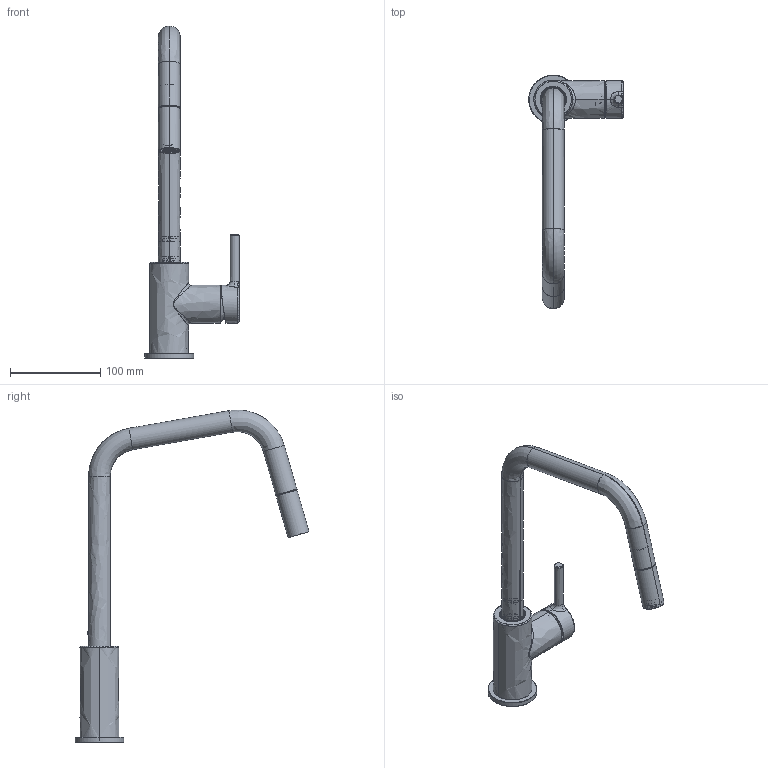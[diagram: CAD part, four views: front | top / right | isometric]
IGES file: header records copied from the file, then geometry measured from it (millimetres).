
Global section: file name: F:\_CONVERSIONE_CAD_2024_2025\PACCHETTI_2026\NUOVI_PACCHETTI_LUGLIO\PRIORITY_3\3D001_Taps_Lina_U-Pull-Down-Nozzle\3D001_Taps_Lina_U-Pull-Down-Nozzle.igs; native system: Rhinoceros ( May  6 2026 ); preprocessor: Trout Lake IGES 012 May  6 2026; date: 260805.132827; units: millimetre
Bounding box: 104.35 x 258.81 x 367.28 mm (x, y, z)
Surface area: 157586.8 mm2 (no closed solid volume)
Topology: 0 solids, 0 shells, 3163 faces, 18819 edges, 18811 vertices
Faces by surface type: bspline 3163
